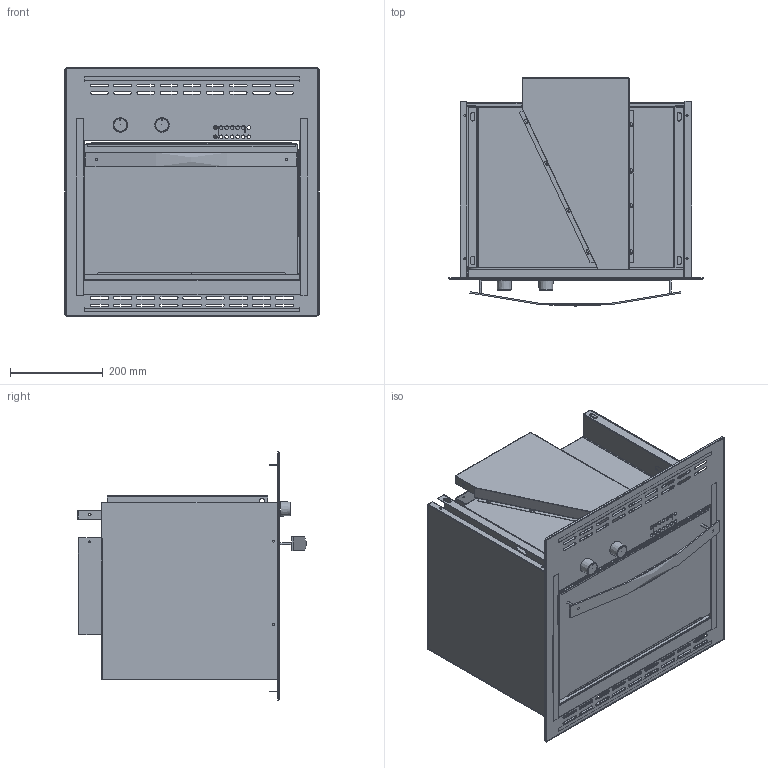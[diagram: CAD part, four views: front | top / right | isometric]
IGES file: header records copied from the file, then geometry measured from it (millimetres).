
Start section:  Alias DesignStudio for Windows version 12.0 IGES version 5.3
Global section: file name: C:\00000LAVORI_IN_CORSO\techimpex\maxi\maxichef.iges; native system: Alias DesignStudio for Windows V12.0; preprocessor: 12.0; author: admin; organization: Unknown; date: 20080722.170055; units: millimetre
Bounding box: 550 x 492.8 x 540 mm (x, y, z)
Surface area: 3711556.4 mm2 (no closed solid volume)
Topology: 0 solids, 0 shells, 1020 faces, 7097 edges, 6961 vertices
Faces by surface type: bspline 1020
